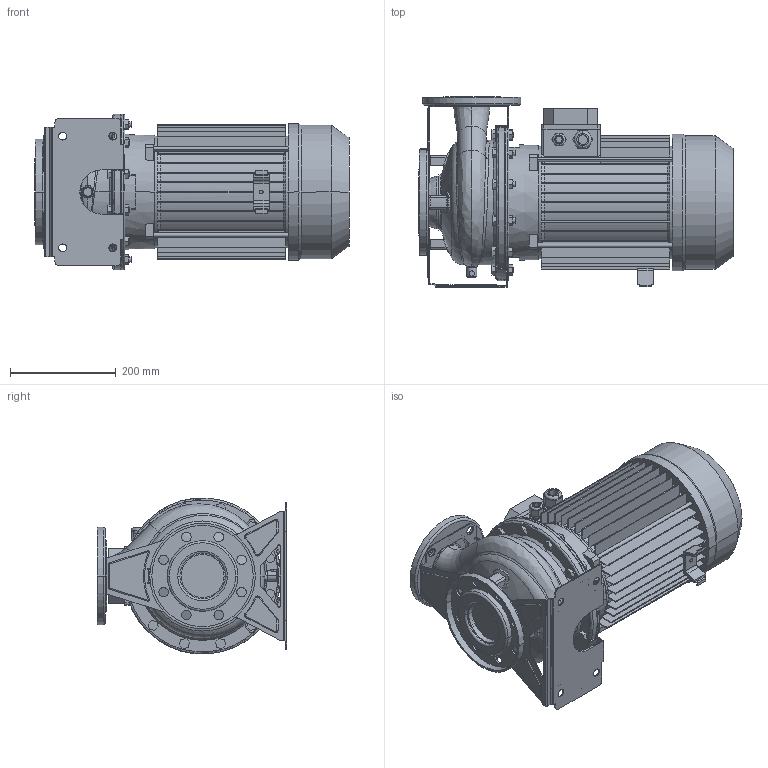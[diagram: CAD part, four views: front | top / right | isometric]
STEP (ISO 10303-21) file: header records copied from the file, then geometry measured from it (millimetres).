
FILE_DESCRIPTION((''),'2;1');
FILE_NAME('3M_65-160_11_IE2_IE3_ASM_ASM','2020-10-30T12:47:36',('Bertolani'),('"Ebara Pumps Europe +39.444.706811"'),'CREO PARAMETRIC BY PTC INC, 2016390','CREO PARAMETRIC BY PTC INC, 2016390','');
FILE_SCHEMA(('AUTOMOTIVE_DESIGN { 1 0 10303 214 1 1 1 1 }'));
Length unit declared in the file: millimetre
Products named in the file (16): CORPO_65-160_AF0_143; ASP_65-160_17_1; ASP_65-160_17_2; ASP_65-160_17_3; ASP_65-160_17_4; ASP_65-160_17_ASM; FLANGIA_DIN_80_8_FORI_19; MAND_65-160_231; FLANGIA_DIN_65_19; BASE_3M_65-160_121; CORPO_SALDATO_65-160_ASM_100_ASM; SUPPORTO_3M_230_132_141; MEC_132X170_190_IE2_7; SOSTEGNO_72010_12; 3M_65-160_11_IE2_IE3_ASM_119_ASM; 3M_65-160_11_IE2_IE3_ASM_ASM
Assembly tree (15 placements, depth 5):
  3M_65-160_11_IE2_IE3_ASM_ASM
    3M_65-160_11_IE2_IE3_ASM_119_ASM
      CORPO_SALDATO_65-160_ASM_100_ASM
        CORPO_65-160_AF0_143
        ASP_65-160_17_ASM
          ASP_65-160_17_1
          ASP_65-160_17_2
          ASP_65-160_17_3
          ASP_65-160_17_4
        FLANGIA_DIN_80_8_FORI_19
        MAND_65-160_231
        FLANGIA_DIN_65_19
        BASE_3M_65-160_121
      SUPPORTO_3M_230_132_141
      MEC_132X170_190_IE2_7
      SOSTEGNO_72010_12
Bounding box: 595 x 360 x 295.54 mm (x, y, z)
Volume: 16635019.1 mm3; surface area: 1858586.4 mm2
Topology: 12 solids, 12 shells, 1142 faces, 2952 edges, 1906 vertices
Faces by surface type: plane 621, cylinder 330, cone 94, torus 62, bspline 29, sphere 6
Entity records: 51888 total; most frequent: CARTESIAN_POINT 9325, DIRECTION 6275, ORIENTED_EDGE 5898, PRESENTATION_STYLE_ASSIGNMENT 2961, STYLED_ITEM 2961, CURVE_STYLE 2949, EDGE_CURVE 2949, AXIS2_PLACEMENT_3D 2290
